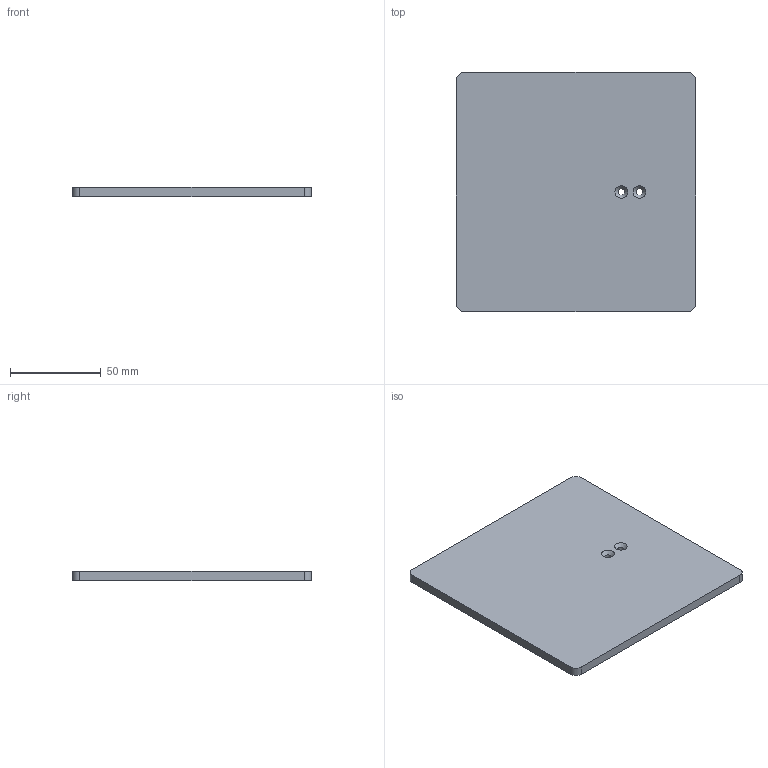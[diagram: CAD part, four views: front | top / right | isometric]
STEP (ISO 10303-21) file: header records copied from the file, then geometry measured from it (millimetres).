
FILE_DESCRIPTION(('FreeCAD Model'),'2;1');
FILE_NAME('Open CASCADE Shape Model','2026-11-06T11:24:15',('FreeCAD'),( 'FreeCAD'),'Open CASCADE STEP processor 7.8','FreeCAD','Unknown');
FILE_SCHEMA(('AUTOMOTIVE_DESIGN { 1 0 10303 214 1 1 1 1 }'));
Length unit declared in the file: millimetre
Products named in the file (1): Open CASCADE STEP translator 7.8 16
Bounding box: 132 x 132 x 5 mm (x, y, z)
Volume: 86899 mm3; surface area: 37484.1 mm2
Topology: 1 solids, 1 shells, 14 faces, 34 edges, 22 vertices
Faces by surface type: plane 6, cylinder 6, cone 2
Full cylindrical faces by diameter (mm): 3.6 x2
Entity records: 434 total; most frequent: DIRECTION 78, CARTESIAN_POINT 71, ORIENTED_EDGE 68, EDGE_CURVE 34, AXIS2_PLACEMENT_3D 29, VERTEX_POINT 22, LINE 20, VECTOR 20
